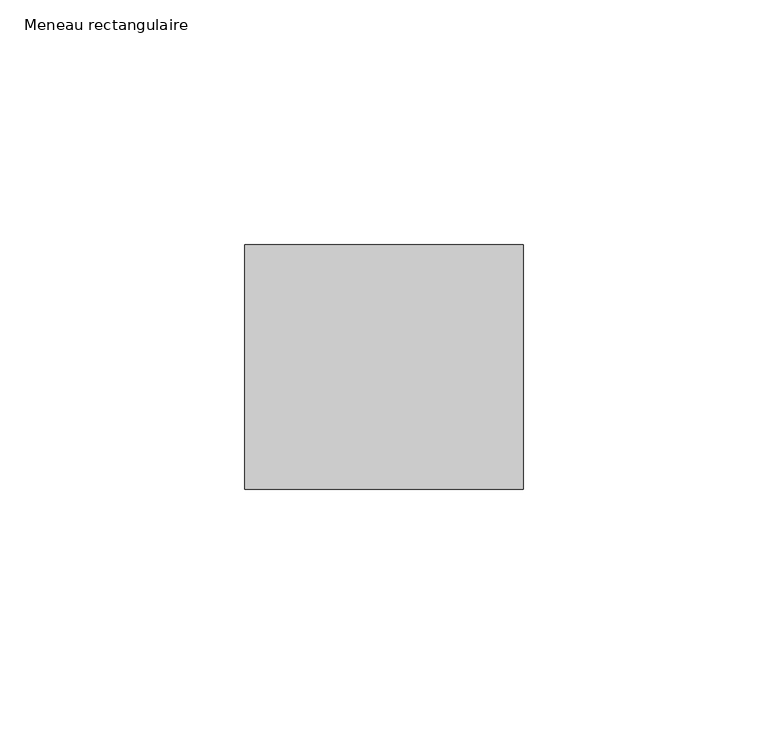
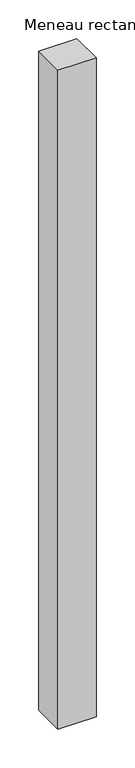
"""IFC4 building model written with IfcOpenShell, lengths in millimetres: member geometry, Meneau rectangulaire : LISSERIE_PLAFOND 85-KLP00-P80-SD57XC."""

from ifc_helpers import new_model, si_unit, frame, origin, place, context, project, spatial, polyline, outline, extrude, source, transform, mapped, element, save


def meneau_rectangulaire_cdd06e90(model_context):
    return source(origin(), model_context, "Body", "SweptSolid", [
        extrude(outline(polyline([(0.0, -25.0), (-57.0, -25.0), (-57.0, 25.0), (0.0, 25.0), (0.0, -25.0)])), frame((0.0, 0.0, -1041.5), z_axis=(0.0, 0.0, 1.0), x_axis=(1.0, 0.0, 0.0)), (0.0, 0.0, 1.0), 1041.5),
    ])


if __name__ == "__main__":
    model = new_model("IFC4")
    model_context = context("Model", 3, world=origin())
    ifc_project = project(units=[si_unit("LENGTHUNIT", "METRE", prefix="MILLI")], contexts=[model_context])
    site = spatial("IfcSite", under=ifc_project)
    building = spatial("IfcBuilding", under=site)
    placement = place(None, origin())
    meneau_rectangulaire_shape = meneau_rectangulaire_cdd06e90(model_context)
    element("IfcMember", 1, ObjectType="Meneau rectangulaire : LISSERIE_PLAFOND 85-KLP00-P80-SD57XC", at=placement, inside=building, context=model_context, shape_type="MappedRepresentation", body=[
        mapped(meneau_rectangulaire_shape, transform((0.0, 0.0, 0.0), x_axis=(1.0, 0.0, 0.0), y_axis=(0.0, 1.0, 0.0), z_axis=(0.0, 0.0, 1.0))),
    ])
    save(model, "model.ifc")
